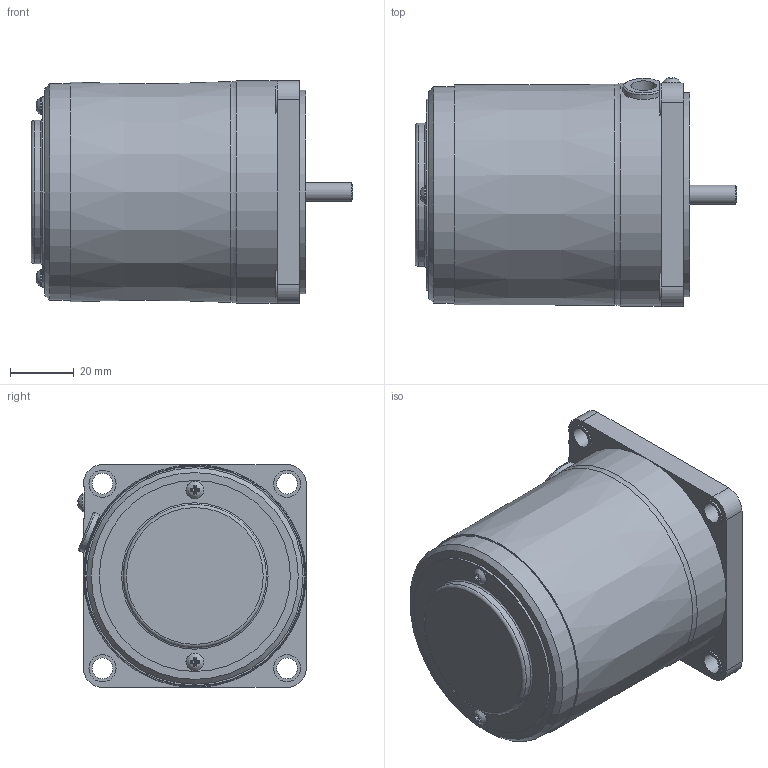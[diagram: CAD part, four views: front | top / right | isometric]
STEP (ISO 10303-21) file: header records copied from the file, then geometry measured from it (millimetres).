
FILE_DESCRIPTION(/* description */ (''),/* implementation_level */ '2;1');
FILE_NAME(/* name */ 'E:\도면작업\2016\0704) 미주향 SG 도면\3D MOTOR\SG6R\SG7R15G\SG7R15G_.stp',/* time_stamp */ '2016-12-12T16:26:30+09:00',/* author */ ('jy-jung'),/* organization */ (''),/* preprocessor_version */ 'ST-DEVELOPER v15.6',/* originating_system */ 'Autodesk Inventor 2015',/* authorisation */ '');
FILE_SCHEMA (('AUTOMOTIVE_DESIGN { 1 0 10303 214 3 1 1 }'));
Length unit declared in the file: millimetre
Products named in the file (1): 부품5
Bounding box: 101.1 x 71.76 x 70 mm (x, y, z)
Volume: 308063.9 mm3; surface area: 34374 mm2
Topology: 1 solids, 5 shells, 159 faces, 388 edges, 256 vertices
Faces by surface type: plane 102, cylinder 41, torus 10, bspline 3, cone 3
Full cylindrical faces by diameter (mm): 3 x2, 3.5 x2, 5.6 x3, 5.96 x1, 6.5 x4, 8 x1, 8.5 x4, 10 x1, 28 x1, 43 x1, 45 x1, 60 x1, 64 x1, 68 x1, 70 x1
Entity records: 4910 total; most frequent: CARTESIAN_POINT 1119, DIRECTION 724, ORIENTED_EDGE 690, EDGE_CURVE 345, AXIS2_PLACEMENT_3D 269, VERTEX_POINT 251, EDGE_LOOP 228, LINE 186
